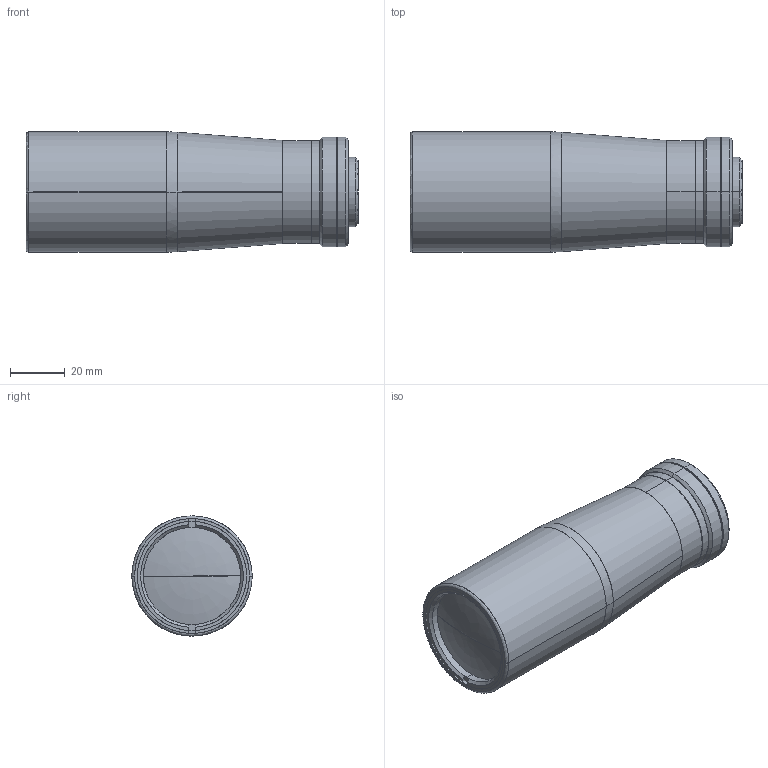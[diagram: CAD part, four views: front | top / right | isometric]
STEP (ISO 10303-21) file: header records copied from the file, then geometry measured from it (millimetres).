
FILE_DESCRIPTION(('LS-TCL-0137'),'2;1');
FILE_NAME('LS-TCL-0137.stp','2026-10-15T21:54:06',('LumaSpec Vision'),('LumaSpec Vision'),'LumaSpec Vision','LumaSpec Vision','');
FILE_SCHEMA(('AUTOMOTIVE_DESIGN { 1 0 10303 214 1 1 1 1 }'));
Length unit declared in the file: millimetre
Products named in the file (67): LumaSpec Vision
Assembly tree (66 placements, depth 2):
  LumaSpec Vision
    LumaSpec Vision
    LumaSpec Vision
    LumaSpec Vision
    LumaSpec Vision
    LumaSpec Vision
    LumaSpec Vision
    LumaSpec Vision
    LumaSpec Vision
    LumaSpec Vision
    LumaSpec Vision
    LumaSpec Vision
    LumaSpec Vision
    LumaSpec Vision
    LumaSpec Vision
    LumaSpec Vision
    LumaSpec Vision
    LumaSpec Vision
    LumaSpec Vision
    LumaSpec Vision
    LumaSpec Vision
    LumaSpec Vision
    LumaSpec Vision
    LumaSpec Vision
    LumaSpec Vision
    LumaSpec Vision
    LumaSpec Vision
    LumaSpec Vision
    LumaSpec Vision
    LumaSpec Vision
    LumaSpec Vision
    LumaSpec Vision
    LumaSpec Vision
    LumaSpec Vision
    LumaSpec Vision
    LumaSpec Vision
    LumaSpec Vision
    LumaSpec Vision
    LumaSpec Vision
    LumaSpec Vision
    LumaSpec Vision
    LumaSpec Vision
    LumaSpec Vision
    LumaSpec Vision
    LumaSpec Vision
    LumaSpec Vision
    LumaSpec Vision
    LumaSpec Vision
    LumaSpec Vision
    LumaSpec Vision
    LumaSpec Vision
    LumaSpec Vision
    LumaSpec Vision
    LumaSpec Vision
    LumaSpec Vision
    LumaSpec Vision
    LumaSpec Vision
    LumaSpec Vision
    LumaSpec Vision
    LumaSpec Vision
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Bounding box: 121.5 x 44 x 44 mm (x, y, z)
Surface area: 25145.1 mm2 (no closed solid volume)
Topology: 0 solids, 66 shells, 66 faces, 1914 edges, 1913 vertices
Faces by surface type: revolution 42, bspline 24
Entity records: 30695 total; most frequent: CARTESIAN_POINT 13120, B_SPLINE_CURVE_WITH_KNOTS 3618, ORIENTED_EDGE 1913, EDGE_CURVE 1913, VERTEX_POINT 1913, SURFACE_CURVE 1913, PCURVE 1913, DEFINITIONAL_REPRESENTATION 1913
